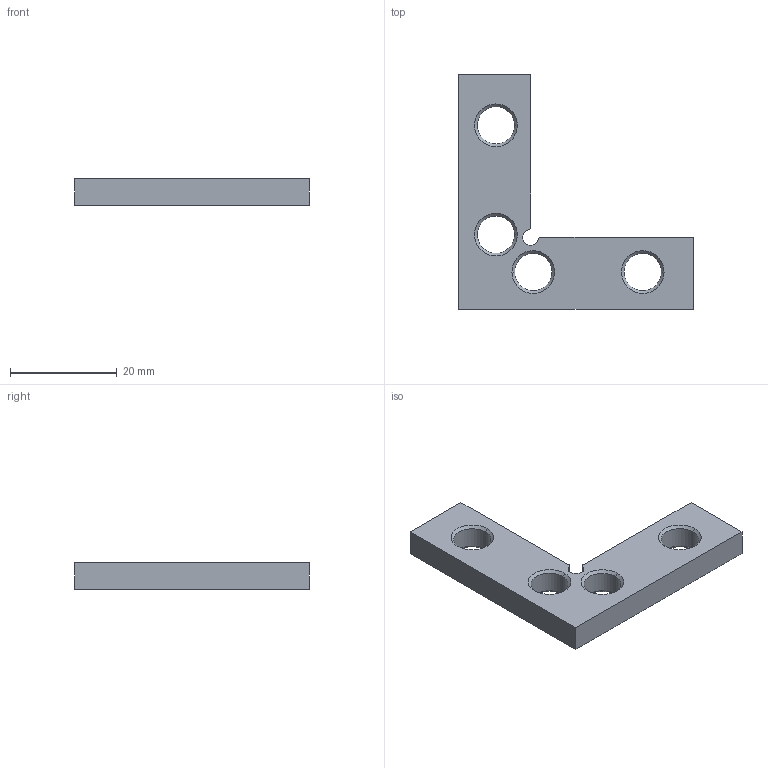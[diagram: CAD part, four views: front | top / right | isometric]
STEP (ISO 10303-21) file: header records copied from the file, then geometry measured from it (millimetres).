
FILE_DESCRIPTION (( 'STEP AP203' ), '1' );
FILE_NAME ('2057.STEP', '2016-03-23T13:19:35', ( '' ), ( '' ), 'SwSTEP 2.0', 'SolidWorks 2014', '' );
FILE_SCHEMA (( 'CONFIG_CONTROL_DESIGN' ));
Length unit declared in the file: millimetre
Products named in the file (1): 2057
Bounding box: 44.03 x 43.99 x 5 mm (x, y, z)
Volume: 4211.4 mm3; surface area: 2983.5 mm2
Topology: 1 solids, 1 shells, 35 faces, 83 edges, 50 vertices
Faces by surface type: cone 16, cylinder 11, plane 8
Entity records: 1100 total; most frequent: DIRECTION 193, CARTESIAN_POINT 169, ORIENTED_EDGE 166, EDGE_CURVE 83, AXIS2_PLACEMENT_3D 74, VERTEX_POINT 50, VECTOR 45, LINE 45
